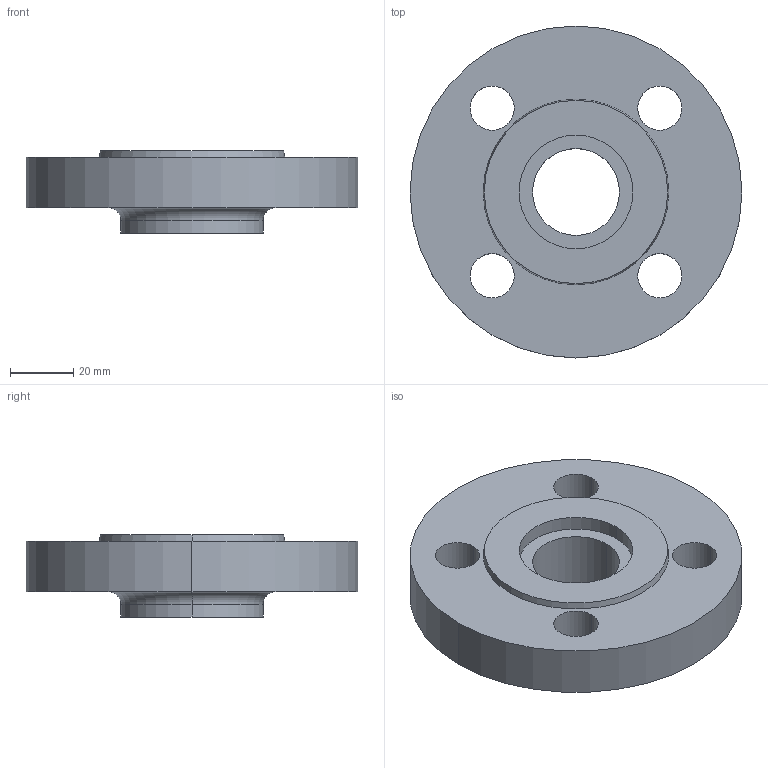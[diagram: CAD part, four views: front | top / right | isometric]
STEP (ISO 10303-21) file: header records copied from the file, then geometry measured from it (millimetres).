
FILE_DESCRIPTION (( 'STEP AP214' ), '1' );
FILE_NAME ('PN40 DN20 Type 12 - Type G Face.STEP', '2018-12-29T18:15:41', ( '' ), ( '' ), 'SwSTEP 2.0', 'SolidWorks 2019', '' );
FILE_SCHEMA (( 'AUTOMOTIVE_DESIGN' ));
Length unit declared in the file: millimetre
Products named in the file (1): PN40 DN20 Type 12 - Type G Face
Bounding box: 105 x 105 x 26 mm (x, y, z)
Volume: 129918.5 mm3; surface area: 26560.8 mm2
Topology: 1 solids, 1 shells, 25 faces, 58 edges, 38 vertices
Faces by surface type: cylinder 16, plane 5, torus 2, cone 2
Entity records: 790 total; most frequent: DIRECTION 150, CARTESIAN_POINT 122, ORIENTED_EDGE 116, AXIS2_PLACEMENT_3D 66, EDGE_CURVE 58, CIRCLE 40, VERTEX_POINT 38, EDGE_LOOP 38
